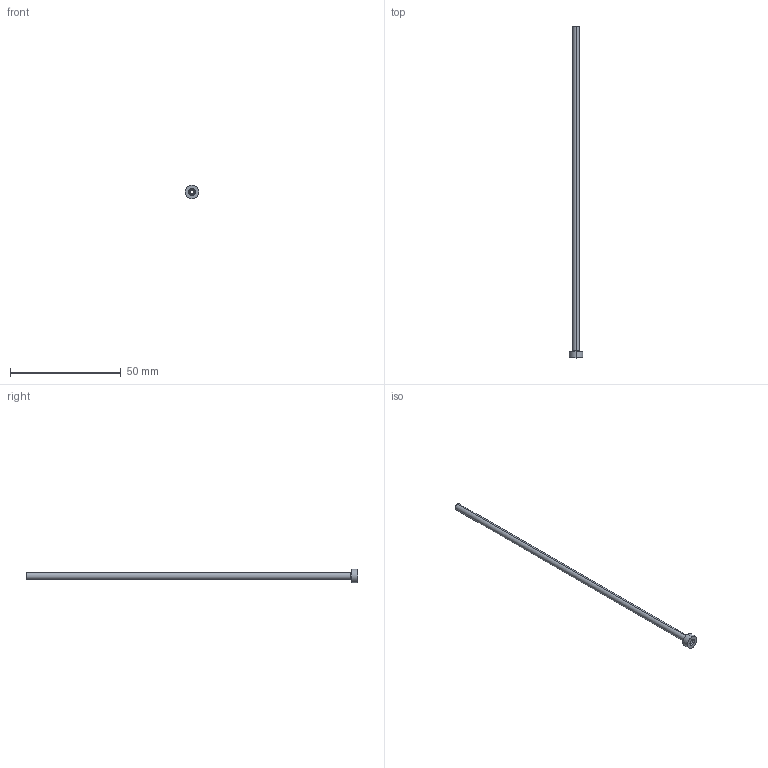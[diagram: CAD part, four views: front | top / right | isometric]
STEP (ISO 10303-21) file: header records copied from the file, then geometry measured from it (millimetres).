
FILE_DESCRIPTION (( 'STEP AP214' ), '1' );
FILE_NAME ('S_1,5x03-150.STEP', '2015-09-10T18:27:14', ( '' ), ( '' ), 'SwSTEP 2.0', 'SolidWorks 2014', '' );
FILE_SCHEMA (( 'AUTOMOTIVE_DESIGN' ));
Length unit declared in the file: millimetre
Products named in the file (1): S_1,5x03-150
Bounding box: 6 x 150 x 6 mm (x, y, z)
Volume: 730 mm3; surface area: 2349.5 mm2
Topology: 1 solids, 1 shells, 17 faces, 34 edges, 20 vertices
Faces by surface type: cylinder 8, cone 4, plane 3, torus 2
Entity records: 484 total; most frequent: DIRECTION 92, CARTESIAN_POINT 72, ORIENTED_EDGE 68, AXIS2_PLACEMENT_3D 40, EDGE_CURVE 34, CIRCLE 22, EDGE_LOOP 20, VERTEX_POINT 20
